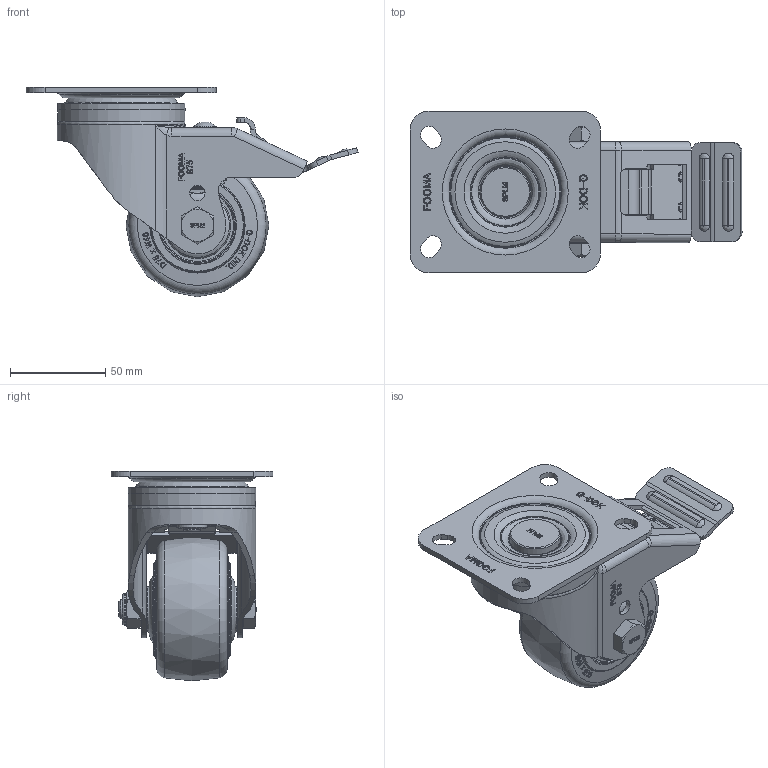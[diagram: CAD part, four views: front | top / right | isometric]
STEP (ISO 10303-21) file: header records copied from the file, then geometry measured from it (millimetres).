
FILE_DESCRIPTION(/* description */ (''),/* implementation_level */ '2;1');
FILE_NAME(/* name */ '\\192.168.10.38\지덕공유\1.기술연구소\2.연구개발 진행중\98.스테인레스캐스터 개발건_2023.10.26\제품설계\3D\홈페이지용\SPLM-75-BSF-HRD-PEU.stp',/* time_stamp */ '2025-02-20T15:50:46+09:00',/* author */ ('admin'),/* organization */ ('지덕산업'),/* preprocessor_version */ 'ST-DEVELOPER v18.1',/* originating_system */ 'Autodesk Inventor 2021',/* authorisation */ '');
FILE_SCHEMA (('CONFIG_CONTROL_DESIGN'));
Products named in the file (1): SPLM-75-BSF-HRD-PEU
Bounding box: 174.29 x 85 x 110 mm (x, y, z)
Volume: 295216.3 mm3; surface area: 76078 mm2
Topology: 1 solids, 1 shells, 1464 faces, 3898 edges, 2539 vertices
Faces by surface type: plane 667, bspline 466, cylinder 184, cone 102, torus 44, sphere 1
Full cylindrical faces by diameter (mm): 6 x1, 8 x2, 9 x1, 10 x2, 11 x1, 12 x1, 16 x2, 16.5 x1, 26.6 x1, 30 x1, 40.105 x1, 40.971 x1, 54 x1, 67 x1
Entity records: 49320 total; most frequent: CARTESIAN_POINT 17104, ORIENTED_EDGE 7788, DIRECTION 5009, EDGE_CURVE 3894, VERTEX_POINT 2539, LINE 1859, VECTOR 1859, EDGE_LOOP 1591
